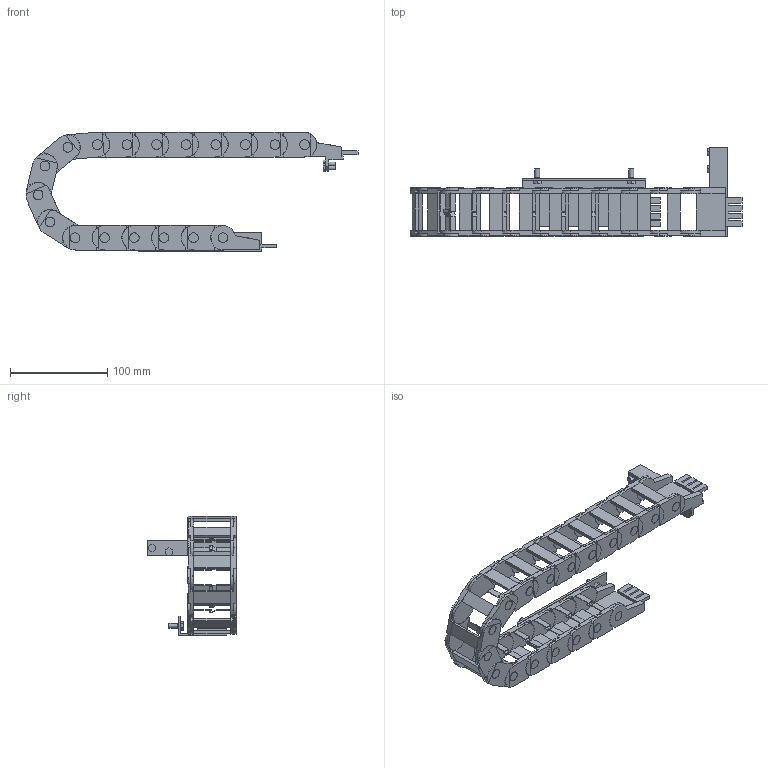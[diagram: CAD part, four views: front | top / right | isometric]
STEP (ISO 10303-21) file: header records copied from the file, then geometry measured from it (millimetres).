
FILE_DESCRIPTION( ( 'STEP AP214' ), '1' );
FILE_NAME( 'U:/Etudes/Top Solid/BIBLIO 3D AVM/STEP/STEP2007LINMOT/8319211.step', '2007-06-07T07:18:15', ( ' ' ), ( ' ' ), 'XStep 1.0', ' ', ' ' );
FILE_SCHEMA( ( 'automotive_design' ) );
Length unit declared in the file: metre
Products named in the file (19): 1; 2; 3; 4; 5; 6; 7; 8; 9; 10; 11; 12; 13; 14; 15; 16; 17; 18; 19
Bounding box: 342.01 x 91.5 x 123.3 mm (x, y, z)
Volume: 228909.2 mm3; surface area: 176228.1 mm2
Topology: 19 solids, 19 shells, 1472 faces, 4149 edges, 2762 vertices
Faces by surface type: plane 1109, cylinder 359, cone 4
Full cylindrical faces by diameter (mm): 4 x4, 4.2 x2, 5 x4, 5.2 x2
Entity records: 59685 total; most frequent: CARTESIAN_POINT 8502, ORIENTED_EDGE 8250, DIRECTION 8093, EDGE_CURVE 4125, LINE 3131, VECTOR 3131, VERTEX_POINT 2754, AXIS2_PLACEMENT_3D 2481
